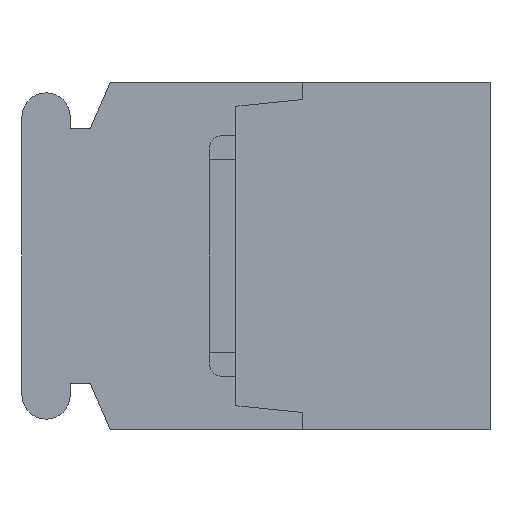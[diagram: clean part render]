
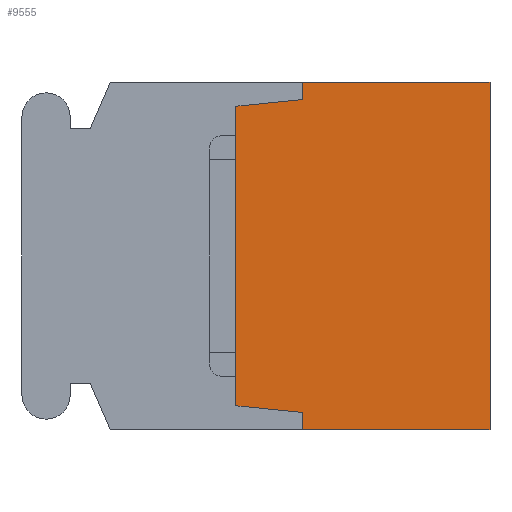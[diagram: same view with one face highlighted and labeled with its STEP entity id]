
A CAD part, left-side view. The second image highlights one B-rep face of the part: STEP entity #9555.
In plain terms, the highlighted planar face has unit normal (-1, 0, 0) as drawn and (0, 0, -1) by its records, which use the part's own axes.
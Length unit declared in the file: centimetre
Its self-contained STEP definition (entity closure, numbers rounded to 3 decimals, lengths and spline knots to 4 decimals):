
#761=VECTOR('',#11006,1.);
#762=VECTOR('',#11007,1.);
#763=VECTOR('',#11008,1.);
#764=VECTOR('',#11009,1.);
#765=VECTOR('',#11010,1.);
#766=VECTOR('',#11011,1.);
#767=VECTOR('',#11012,1.);
#768=VECTOR('',#11013,1.);
#1891=LINE('',#13028,#761);
#1892=LINE('',#13031,#762);
#1893=LINE('',#13033,#763);
#1894=LINE('',#13035,#764);
#1895=LINE('',#13037,#765);
#1896=LINE('',#13039,#766);
#1897=LINE('',#13041,#767);
#1898=LINE('',#13043,#768);
#3011=VERTEX_POINT('',#13029);
#3012=VERTEX_POINT('',#13030);
#3013=VERTEX_POINT('',#13032);
#3014=VERTEX_POINT('',#13034);
#3015=VERTEX_POINT('',#13036);
#3016=VERTEX_POINT('',#13038);
#3017=VERTEX_POINT('',#13040);
#3018=VERTEX_POINT('',#13042);
#4190=EDGE_CURVE('',#3011,#3012,#1891,.T.);
#4191=EDGE_CURVE('',#3013,#3011,#1892,.T.);
#4192=EDGE_CURVE('',#3014,#3013,#1893,.T.);
#4193=EDGE_CURVE('',#3015,#3014,#1894,.T.);
#4194=EDGE_CURVE('',#3016,#3015,#1895,.T.);
#4195=EDGE_CURVE('',#3017,#3016,#1896,.T.);
#4196=EDGE_CURVE('',#3018,#3017,#1897,.T.);
#4197=EDGE_CURVE('',#3012,#3018,#1898,.T.);
#5975=ORIENTED_EDGE('',*,*,#4190,.F.);
#5976=ORIENTED_EDGE('',*,*,#4191,.F.);
#5977=ORIENTED_EDGE('',*,*,#4192,.F.);
#5978=ORIENTED_EDGE('',*,*,#4193,.F.);
#5979=ORIENTED_EDGE('',*,*,#4194,.F.);
#5980=ORIENTED_EDGE('',*,*,#4195,.F.);
#5981=ORIENTED_EDGE('',*,*,#4196,.F.);
#5982=ORIENTED_EDGE('',*,*,#4197,.F.);
#8350=EDGE_LOOP('',(#5975,#5976,#5977,#5978,#5979,#5980,#5981,#5982));
#8962=FACE_BOUND('',#8350,.T.);
#9555=ADVANCED_FACE('',(#8962),#10080,.F.);
#10080=PLANE('',#16416);
#11005=DIRECTION('',(0.,0.,1.));
#11006=DIRECTION('',(1.,0.,0.));
#11007=DIRECTION('',(0.,-1.,0.));
#11008=DIRECTION('',(-1.,0.,0.));
#11009=DIRECTION('',(-0.1,-0.995,0.));
#11010=DIRECTION('',(-1.,0.,0.));
#11011=DIRECTION('',(-0.1,0.995,0.));
#11012=DIRECTION('',(-1.,0.,0.));
#11013=DIRECTION('',(0.,1.,0.));
#13027=CARTESIAN_POINT('',(0.,-0.4874,-1.42));
#13028=CARTESIAN_POINT('',(-0.65,-0.95,-1.42));
#13029=CARTESIAN_POINT('',(-0.65,-0.95,-1.42));
#13030=CARTESIAN_POINT('',(0.65,-0.95,-1.42));
#13031=CARTESIAN_POINT('',(-0.65,-0.25,-1.42));
#13032=CARTESIAN_POINT('',(-0.65,-0.25,-1.42));
#13033=CARTESIAN_POINT('',(-0.585,-0.25,-1.42));
#13034=CARTESIAN_POINT('',(-0.585,-0.25,-1.42));
#13035=CARTESIAN_POINT('',(-0.56,0.,-1.42));
#13036=CARTESIAN_POINT('',(-0.56,0.,-1.42));
#13037=CARTESIAN_POINT('',(0.56,0.,-1.42));
#13038=CARTESIAN_POINT('',(0.56,0.,-1.42));
#13039=CARTESIAN_POINT('',(0.585,-0.25,-1.42));
#13040=CARTESIAN_POINT('',(0.585,-0.25,-1.42));
#13041=CARTESIAN_POINT('',(0.65,-0.25,-1.42));
#13042=CARTESIAN_POINT('',(0.65,-0.25,-1.42));
#13043=CARTESIAN_POINT('',(0.65,-0.95,-1.42));
#16416=AXIS2_PLACEMENT_3D('',#13027,#11005,$);
